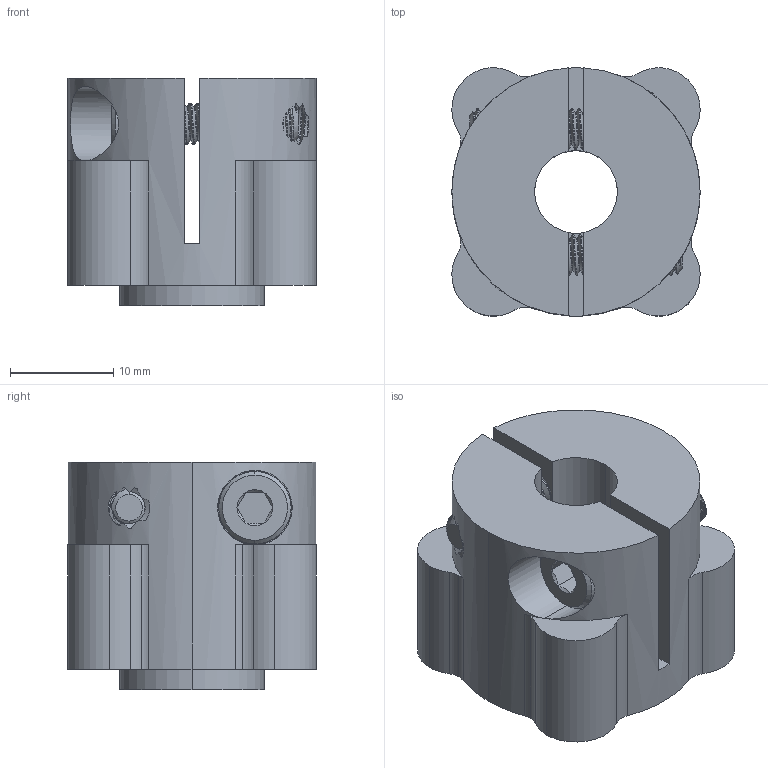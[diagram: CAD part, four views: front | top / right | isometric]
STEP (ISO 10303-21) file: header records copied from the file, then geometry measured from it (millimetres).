
FILE_DESCRIPTION (( 'STEP AP203' ), '1' );
FILE_NAME ('1310-0016-0008 assembly.STEP', '2020-08-21T13:59:35', ( '' ), ( '' ), 'SwSTEP 2.0', 'SolidWorks 2016', '' );
FILE_SCHEMA (( 'CONFIG_CONTROL_DESIGN' ));
Length unit declared in the file: millimetre
Products named in the file (3): 2800-0004-0014_90128A207; 1310-0016-0008 assembly; 1310-0016-0008
Assembly tree (3 placements, depth 2):
  1310-0016-0008 assembly
    1310-0016-0008
    2800-0004-0014_90128A207  x2
Bounding box: 24 x 23.99 x 22 mm (x, y, z)
Volume: 8272.3 mm3; surface area: 5942 mm2
Topology: 3 solids, 3 shells, 624 faces, 1784 edges, 1166 vertices
Faces by surface type: cylinder 510, cone 46, plane 44, bspline 24
Entity records: 43977 total; most frequent: CARTESIAN_POINT 32560, ORIENTED_EDGE 2962, DIRECTION 1770, EDGE_CURVE 1481, VERTEX_POINT 975, AXIS2_PLACEMENT_3D 656, EDGE_LOOP 532, ADVANCED_FACE 516
